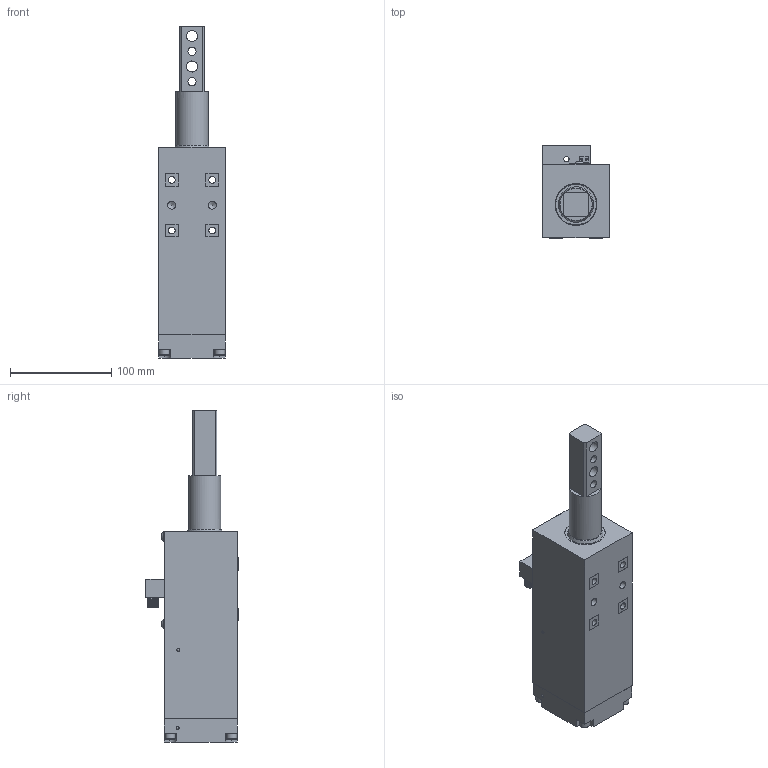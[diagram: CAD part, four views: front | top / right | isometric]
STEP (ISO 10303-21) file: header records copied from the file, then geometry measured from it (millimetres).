
FILE_DESCRIPTION(/* description */ (''),/* implementation_level */ '2;1');
FILE_NAME(/* name */ 'Z:\CAD-Zaytran\Product\LSA\LSA - 72\STEP Files\LSA-72 50mm\LSA-72 50mm Extend Holes Verticle.stp',/* time_stamp */ '2021-01-04T08:18:42-05:00',/* author */ ('ZaytranCAD2'),/* organization */ (''),/* preprocessor_version */ 'ST-DEVELOPER v17',/* originating_system */ 'Autodesk Inventor 2019',/* authorisation */ '');
FILE_SCHEMA (('AUTOMOTIVE_DESIGN { 1 0 10303 214 3 1 1 }'));
Products named in the file (22): LSA-72 Assembly; LSA-72 Body; LSA-72 Shaft; LSA-72 Piston; LSA-72 Anti Rotation Block; 1.25 Dia Oring; Press Seal Ring; LSA-72 End Cap; .125 Ball Bearing; .3125 O Ring; Turck Sensor; Chicklet - New; 5.0x8mm Button Head Screw; M10 Washer; M10 Hex Nut; .375 Black Oxide 18-8 Stainless Steel Washer; M8 Washer; M8x30mm SHCS; AS 1420 - 1973 - M6 x 25; Sensor Cover; AS 1420 - 1973 - M3 x 6; Rod Wiper
Assembly tree (28 placements, depth 2):
  LSA-72 Assembly
    LSA-72 Body
    LSA-72 Shaft
    LSA-72 Piston
    LSA-72 Anti Rotation Block
    1.25 Dia Oring
    Press Seal Ring
    LSA-72 End Cap
    .125 Ball Bearing  x2
    .3125 O Ring
    Chicklet - New  x3
    Turck Sensor
    5.0x8mm Button Head Screw  x2
    M10 Washer
    M10 Hex Nut
    .375 Black Oxide 18-8 Stainless Steel Washer
    M8 Washer
    M8x30mm SHCS
    AS 1420 - 1973 - M6 x 25  x4
    Sensor Cover
    AS 1420 - 1973 - M3 x 6
    Rod Wiper
Bounding box: 66 x 91.01 x 328 mm (x, y, z)
Volume: 859651.4 mm3; surface area: 192275 mm2
Topology: 28 solids, 28 shells, 1288 faces, 3588 edges, 2398 vertices
Faces by surface type: plane 404, cone 330, cylinder 294, bspline 233, torus 23, sphere 4
Full cylindrical faces by diameter (mm): 1 x8, 1.587 x2, 2 x2, 2.2 x6, 2.464 x4, 3 x1, 3.048 x2, 3.099 x2, 3.175 x2, 3.961 x20, 4.14 x2, 4.47 x1, 4.762 x1, 4.928 x4, 5 x18, 5.3 x4, 5.5 x1, 6 x4, 6.248 x4, 6.655 x5, 6.701 x28, 6.756 x4, 7.938 x1, 8 x33, 8.3 x1, 8.331 x1, 8.56 x2, 9.5 x2, 9.652 x1, 9.982 x1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
Entity records: 51367 total; most frequent: CARTESIAN_POINT 22257, ORIENTED_EDGE 6524, DIRECTION 5097, EDGE_CURVE 3262, VERTEX_POINT 2181, AXIS2_PLACEMENT_3D 2082, EDGE_LOOP 1295, FACE_OUTER_BOUND 1172
